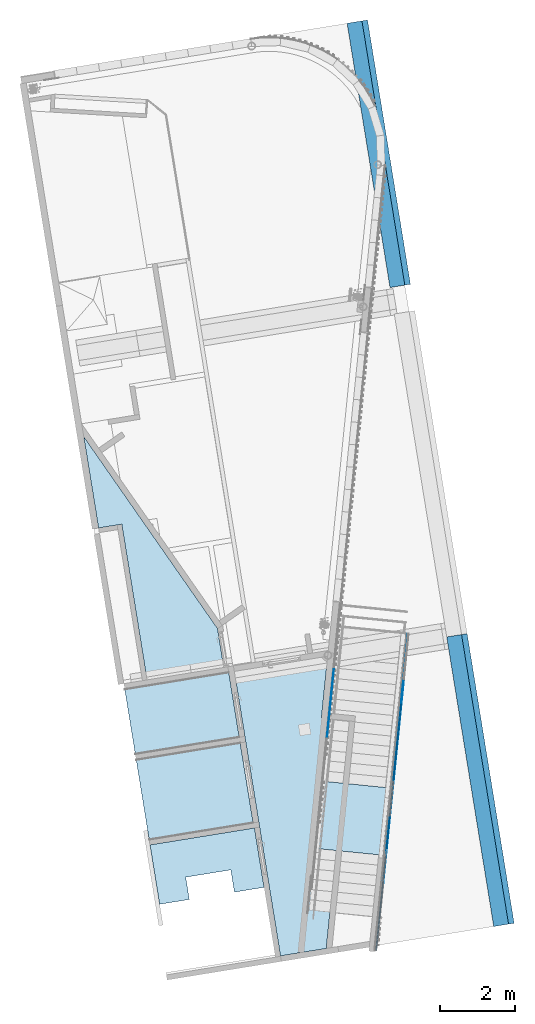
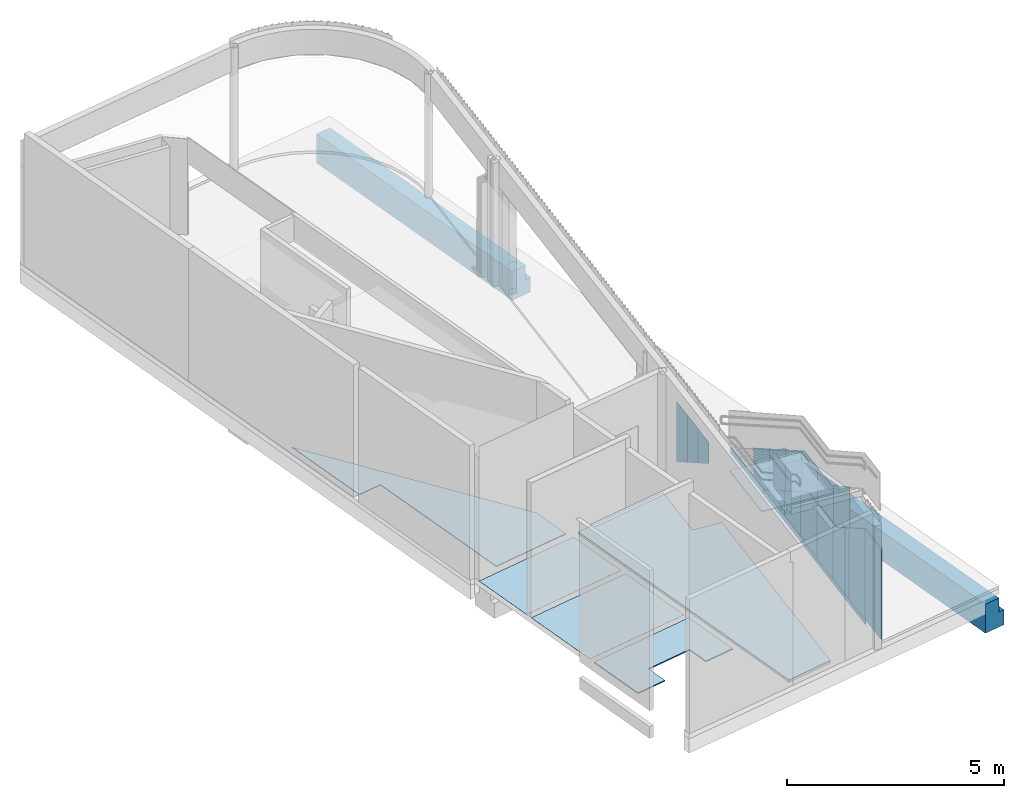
# One storey, part 6 of 23: 18 plates, 6 slabs, 2 beams, 5 elements without a shape of their own.
"""IFC2X3 building model written with IfcOpenShell, lengths in millimetres."""

from ifc_helpers import new_model, entity, si_unit, converted_unit, derived_unit, direction, frame, frame_2d, origin, origin_with_axes, origin_2d_with_axis, place, context, subcontext, project, spatial, polyline, rectangle, outline, extrude, faceted_brep, source, transform, mapped, material, layer, layer_set, layer_usage, type_object, element, aggregate, save


model = new_model("IFC2X3")

# Units and contexts
plan_context = context("Plan", 3, precision=1e-05, world=origin_with_axes())
model_context = context("Model", 3, precision=0.01, world=origin(), true_north=direction((6.12323399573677e-17, 1.0)))
body_context = subcontext(model_context, "Body", "Model", "MODEL_VIEW")
ifc_project = project(units=[converted_unit("PLANEANGLEUNIT", "DEGREE", entity("IfcPositiveLengthMeasure", 0.0174532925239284), si_unit("PLANEANGLEUNIT", "RADIAN"), dimensions=[0, 0, 0, 0, 0, 0, 0]), si_unit("AREAUNIT", "SQUARE_METRE"), si_unit("LENGTHUNIT", "METRE", prefix="MILLI"), si_unit("MASSUNIT", "GRAM", prefix="KILO"), si_unit("POWERUNIT", "WATT"), si_unit("PRESSUREUNIT", "PASCAL", prefix="KILO"), si_unit("FORCEUNIT", "NEWTON", prefix="KILO"), si_unit("ELECTRICVOLTAGEUNIT", "VOLT"), si_unit("ELECTRICCURRENTUNIT", "AMPERE"), si_unit("THERMODYNAMICTEMPERATUREUNIT", "DEGREE_CELSIUS"), si_unit("TIMEUNIT", "SECOND"), si_unit("VOLUMEUNIT", "CUBIC_METRE"), derived_unit("LINEARVELOCITYUNIT", [(si_unit("LENGTHUNIT", "METRE"), 1), (si_unit("TIMEUNIT", "SECOND"), -1)]), derived_unit("VOLUMETRICFLOWRATEUNIT", [(si_unit("VOLUMEUNIT", "CUBIC_METRE"), 1), (si_unit("TIMEUNIT", "SECOND"), -1)]), derived_unit("THERMALTRANSMITTANCEUNIT", [(si_unit("POWERUNIT", "WATT"), 1), (si_unit("THERMODYNAMICTEMPERATUREUNIT", "KELVIN"), -1), (si_unit("AREAUNIT", "SQUARE_METRE"), -1)]), derived_unit("SOUNDPRESSUREUNIT", [(si_unit("PRESSUREUNIT", "PASCAL"), 1)])], contexts=[model_context, plan_context])

# Site, building, storey
site_placement = place(None, frame((-0.00071070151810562, 0.00438415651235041, 0.0), z_axis=(0.0, 0.0, 1.0), x_axis=(-0.160236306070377, 0.987078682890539, 0.0)))
site = spatial("IfcSite", under=ifc_project, at=site_placement, Name="Default", CompositionType="ELEMENT")
building_placement = place(site_placement, origin_with_axes())
building = spatial("IfcBuilding", under=site, at=building_placement, Name="TOO", CompositionType="ELEMENT")
storey_placement = place(building_placement, frame((0.0, 0.0, 58999.9999999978), z_axis=(0.0, 0.0, 1.0), x_axis=(1.0, 0.0, 0.0)))
storey = spatial("IfcBuildingStorey", under=building, at=storey_placement, Name="Nivå F", CompositionType="ELEMENT", Elevation=58999.9999999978)

# Beams
beam_type = type_object("IfcBeamType", Name="A223 - LB Prefab. Betongbjelke 815x550:A223 - LB Prefab. Betongbjelke - 815 mm x 550 mm", PredefinedType="BEAM")
beam_1_placement = place(storey_placement, frame((789077.619644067, -510022.477242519, 0.0), z_axis=(0.0, 0.0, 1.0), x_axis=(-1.0, 0.0, 0.0)))
element("IfcBeam", 1, at=beam_1_placement, inside=storey, type_object=beam_type, Name="A223 - LB Prefab. Betongbjelke 815x550:A223 - LB Prefab. Betongbjelke - 815 mm x 550 mm", ObjectType="A223 - LB Prefab. Betongbjelke 815x550:A223 - LB Prefab. Betongbjelke - 815 mm x 550 mm", context=body_context, shape_type="Brep", body=[
    faceted_brep([(1689.46462267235, -318.999999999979, -330.000000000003), (1689.46462267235, 80.9999999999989, -330.000000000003), (8809.4999999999, 80.9999999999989, -330.000000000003), (8809.4999999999, -318.999999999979, -330.000000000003), (1689.46462267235, -318.999999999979, -1145.0), (8809.4999999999, -318.999999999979, -1145.0), (1689.46462267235, 230.999999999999, -1145.0), (8809.4999999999, 230.999999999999, -1145.0), (1689.46462267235, 230.999999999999, -725.0), (8809.4999999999, 230.999999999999, -725.0), (1689.46462267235, 80.9999999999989, -725.0), (8809.4999999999, 80.9999999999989, -725.0)], [[[0, 1, 2, 3]], [[4, 0, 3, 5]], [[6, 4, 5, 7]], [[8, 6, 7, 9]], [[10, 8, 9, 11]], [[1, 10, 11, 2]], [[3, 2, 11, 9, 7, 5]], [[4, 6, 8, 10, 1, 0]]], orient=[[False], [False], [False], [False], [False], [False], [False], [False]]),
])
beam_2_placement = place(storey_placement, frame((770852.619644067, -510022.477242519, -5.0), z_axis=(0.0, 0.0, 1.0), x_axis=(-1.0, 0.0, 0.0)))
element("IfcBeam", 2, at=beam_2_placement, inside=storey, type_object=beam_type, Name="A223 - LB Prefab. Betongbjelke 815x550:A223 - LB Prefab. Betongbjelke - 815 mm x 550 mm", ObjectType="A223 - LB Prefab. Betongbjelke 815x550:A223 - LB Prefab. Betongbjelke - 815 mm x 550 mm", context=body_context, shape_type="Brep", body=[
    faceted_brep([(7802.50000000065, 80.9999999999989, -330.000000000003), (7802.50000000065, -318.999999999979, -330.000000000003), (0.0, -318.999999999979, -330.000000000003), (0.0, 80.9999999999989, -330.000000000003), (7802.50000000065, -318.999999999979, -1145.0), (0.0, -318.999999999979, -1145.0), (7802.50000000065, 230.999999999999, -1145.0), (0.0, 230.999999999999, -1145.0), (7802.50000000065, 230.999999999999, -725.0), (0.0, 230.999999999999, -725.0), (7802.50000000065, 80.9999999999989, -725.0), (0.0, 80.9999999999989, -725.0)], [[[0, 1, 2, 3]], [[1, 4, 5, 2]], [[4, 6, 7, 5]], [[6, 8, 9, 7]], [[8, 10, 11, 9]], [[10, 0, 3, 11]], [[3, 2, 5, 7, 9, 11]], [[10, 8, 6, 4, 1, 0]]], orient=[[False], [False], [False], [False], [False], [False], [False], [False]]),
])

# Curtain wall, plates
curtain_wall_type = type_object("IfcCurtainWallType", Name="Curtain Wall:Curtain Wall Standard (Bruk kun denne)", PredefinedType="NOTDEFINED")
curtain_wall_1_placement = place(storey_placement, frame((0.0, 0.0, -58999.9999999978), z_axis=(0.0, 0.0, 1.0), x_axis=(1.0, 0.0, 0.0)))
curtain_wall_1 = element("IfcCurtainWall", 3, at=curtain_wall_1_placement, inside=storey, type_object=curtain_wall_type, Name="Curtain Wall:Curtain Wall Standard (Bruk kun denne)", ObjectType="Curtain Wall:Curtain Wall Standard (Bruk kun denne)")
ifc_material_1 = material(Name="A246 - T _veggkledning trespiler")
plate_type_1 = type_object("IfcPlateType", Name="System Panel:A246-T01 - Trespiler hovedpaviljong", PredefinedType="CURTAIN_PANEL", material=ifc_material_1)
shared_shape_1 = source(origin(), body_context, "Body", "SweptSolid", [
    extrude(outline(polyline([(-205.938933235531, -300.0), (388.547628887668, -300.0), (388.547628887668, 300.0), (-571.156324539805, 300.0), (-205.938933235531, -300.0)])), frame((0.0, -10.0, 571.156324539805), z_axis=(0.0, 1.0, 0.0), x_axis=(0.0, 0.0, 1.0)), (0.0, 0.0, 1.0), 10.0),
])
plate_1_placement = place(curtain_wall_1_placement, frame((769034.157781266, -506210.466719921, 60740.2960465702), z_axis=(0.0, 0.0, 1.0), x_axis=(0.965925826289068, -0.258819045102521, 0.0)))
plate_1 = element("IfcPlate", 4, at=plate_1_placement, type_object=plate_type_1, material=ifc_material_1, Name="System Panel:A246-T01 - Trespiler hovedpaviljong", ObjectType="System Panel:A246-T01 - Trespiler hovedpaviljong", context=body_context, shape_type="MappedRepresentation", body=[
    mapped(shared_shape_1, transform((0.0, 0.0, 0.0), scale=1.0)),
])
plate_type_2 = type_object("IfcPlateType", Name="System Panel:A246-T01 - Trespiler hovedpaviljong", PredefinedType="CURTAIN_PANEL", material=ifc_material_1)
shared_shape_2 = source(origin(), body_context, "Body", "SweptSolid", [
    extrude(outline(polyline([(-388.547628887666, -300.0), (571.156324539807, -300.0), (571.156324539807, 300.0), (-753.765020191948, 300.0), (-388.547628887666, -300.0)])), frame((0.0, -10.0, 753.765020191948), z_axis=(0.0, 1.0, 0.0), x_axis=(0.0, 0.0, 1.0)), (0.0, 0.0, 1.0), 10.0),
])
plate_2_placement = place(curtain_wall_1_placement, frame((769613.71327704, -506365.758146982, 60375.0786552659), z_axis=(0.0, 0.0, 1.0), x_axis=(0.965925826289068, -0.258819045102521, 0.0)))
plate_2 = element("IfcPlate", 5, at=plate_2_placement, type_object=plate_type_2, material=ifc_material_1, Name="System Panel:A246-T01 - Trespiler hovedpaviljong", ObjectType="System Panel:A246-T01 - Trespiler hovedpaviljong", context=body_context, shape_type="MappedRepresentation", body=[
    mapped(shared_shape_2, transform((0.0, 0.0, 0.0), scale=1.0)),
])
plate_type_3 = type_object("IfcPlateType", Name="System Panel:A246-T01 - Trespiler hovedpaviljong", PredefinedType="CURTAIN_PANEL", material=ifc_material_1)
shared_shape_3 = source(origin(), body_context, "Body", "SweptSolid", [
    extrude(outline(polyline([(-571.156324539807, -300.0), (753.765020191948, -300.0), (753.765020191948, 300.0), (-936.37371584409, 300.0), (-571.156324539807, -300.0)])), frame((0.0, -10.0, 936.37371584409), z_axis=(0.0, 1.0, 0.0), x_axis=(0.0, 0.0, 1.0)), (0.0, 0.0, 1.0), 10.0),
])
plate_3_placement = place(curtain_wall_1_placement, frame((770193.268772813, -506521.049574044, 60009.8612639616), z_axis=(0.0, 0.0, 1.0), x_axis=(0.965925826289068, -0.258819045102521, 0.0)))
plate_3 = element("IfcPlate", 6, at=plate_3_placement, type_object=plate_type_3, material=ifc_material_1, Name="System Panel:A246-T01 - Trespiler hovedpaviljong", ObjectType="System Panel:A246-T01 - Trespiler hovedpaviljong", context=body_context, shape_type="MappedRepresentation", body=[
    mapped(shared_shape_3, transform((0.0, 0.0, 0.0), scale=1.0)),
])
aggregate(curtain_wall_1, [plate_1, plate_2, plate_3])

# Curtain wall, plate
curtain_wall_2_placement = place(storey_placement, frame((0.0, 0.0, -58999.9999999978), z_axis=(0.0, 0.0, 1.0), x_axis=(1.0, 0.0, 0.0)))
curtain_wall_2 = element("IfcCurtainWall", 7, at=curtain_wall_2_placement, inside=storey, type_object=curtain_wall_type, Name="Curtain Wall:Curtain Wall Standard (Bruk kun denne)", ObjectType="Curtain Wall:Curtain Wall Standard (Bruk kun denne)")
ifc_material_2 = material(Name="A246 - M02 _veggkledning metalrist tilluft")
plate_type_4 = type_object("IfcPlateType", Name="System Panel:A246-M02 - Metallrist tilluft hovedpaviljong", PredefinedType="CURTAIN_PANEL", material=ifc_material_2)
shared_shape_4 = source(origin(), body_context, "Body", "SweptSolid", [
    extrude(rectangle(XDim=2545.0, YDim=895.000000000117, at=frame_2d((131.874999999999, -36.8749999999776), x_axis=(1.0, 0.0))), frame((36.8749999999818, -10.0, 1140.625), z_axis=(0.0, 1.0, 0.0), x_axis=(0.0, 0.0, 1.0)), (0.0, 0.0, 1.0), 30.0),
])
plate_4_placement = place(curtain_wall_2_placement, frame((763358.166870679, -506636.064343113, 59154.9999999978), z_axis=(0.0, 0.0, 1.0), x_axis=(0.965925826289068, -0.258819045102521, 0.0)))
plate_4 = element("IfcPlate", 8, at=plate_4_placement, type_object=plate_type_4, material=ifc_material_2, Name="System Panel:A246-M02 - Metallrist tilluft hovedpaviljong", ObjectType="System Panel:A246-M02 - Metallrist tilluft hovedpaviljong", context=body_context, shape_type="MappedRepresentation", body=[
    mapped(shared_shape_4, transform((0.0, 0.0, 0.0), scale=1.0)),
])
aggregate(curtain_wall_2, [plate_4])

# Curtain wall, plates
curtain_wall_3_placement = place(storey_placement, frame((0.0, 0.0, -58999.9999999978), z_axis=(0.0, 0.0, 1.0), x_axis=(1.0, 0.0, 0.0)))
curtain_wall_3 = element("IfcCurtainWall", 9, at=curtain_wall_3_placement, inside=storey, type_object=curtain_wall_type, Name="Curtain Wall:Curtain Wall Standard (Bruk kun denne)", ObjectType="Curtain Wall:Curtain Wall Standard (Bruk kun denne)")
ifc_material_3 = material(Name="A249 - S01 _sokkel veggkledning")
plate_type_5 = type_object("IfcPlateType", Name="A249-S02 - Sokkel veggkledning trespiler:A249-S02 - Sokkel veggkledning trespiler", PredefinedType="CURTAIN_PANEL", material=ifc_material_3)
shared_shape_5 = source(origin(), body_context, "Body", "SweptSolid", [
    extrude(rectangle(XDim=5714.21459508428, YDim=20.0, at=origin_2d_with_axis()), origin(), (0.0, 0.0, 1.0), 150.000000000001),
])
plate_5_placement = place(curtain_wall_3_placement, frame((766550.172405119, -507491.359648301, 58999.9999999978), z_axis=(0.0, 0.0, 1.0), x_axis=(0.965925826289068, -0.258819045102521, 0.0)))
plate_5 = element("IfcPlate", 10, at=plate_5_placement, type_object=plate_type_5, material=ifc_material_3, Name="A249-S02 - Sokkel veggkledning trespiler:A249-S02 - Sokkel veggkledning trespiler", ObjectType="A249-S02 - Sokkel veggkledning trespiler:A249-S02 - Sokkel veggkledning trespiler", context=body_context, shape_type="MappedRepresentation", body=[
    mapped(shared_shape_5, transform((0.0, 0.0, 0.0), scale=1.0)),
])
plate_type_6 = type_object("IfcPlateType", Name="System Panel:A246-M02 - Metallrist tilluft hovedpaviljong", PredefinedType="CURTAIN_PANEL", material=ifc_material_2)
shared_shape_6 = source(origin(), body_context, "Body", "SweptSolid", [
    extrude(outline(polyline([(-1305.81870469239, -539.480053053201), (1233.2845653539, -539.480053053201), (687.040925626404, 357.92021221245), (691.311918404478, 360.519946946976), (-1305.81870469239, 360.519946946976), (-1305.81870469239, -539.480053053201)])), frame((89.4800530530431, -10.0, 1305.81870469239), z_axis=(0.0, 1.0, 0.0), x_axis=(0.0, 0.0, 1.0)), (0.0, 0.0, 1.0), 30.0),
])
plate_6_placement = place(curtain_wall_3_placement, frame((764225.085299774, -506868.354436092, 59154.9999999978), z_axis=(0.0, 0.0, 1.0), x_axis=(0.965925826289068, -0.258819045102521, 0.0)))
plate_6 = element("IfcPlate", 11, at=plate_6_placement, type_object=plate_type_6, material=ifc_material_2, Name="System Panel:A246-M02 - Metallrist tilluft hovedpaviljong", ObjectType="System Panel:A246-M02 - Metallrist tilluft hovedpaviljong", context=body_context, shape_type="MappedRepresentation", body=[
    mapped(shared_shape_6, transform((0.0, 0.0, 0.0), scale=1.0)),
])
plate_type_7 = type_object("IfcPlateType", Name="System Panel:A246-M02 - Metallrist tilluft hovedpaviljong", PredefinedType="CURTAIN_PANEL", material=ifc_material_2)
shared_shape_7 = source(origin(), body_context, "Body", "SweptSolid", [
    extrude(outline(polyline([(-1103.00103171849, -546.066814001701), (888.276151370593, -546.066814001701), (439.727975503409, 190.833760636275), (438.998968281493, 193.433495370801), (438.998968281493, 353.933185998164), (-1103.00103171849, 353.933185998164), (-1103.00103171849, -546.066814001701)])), frame((96.0668140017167, -10.0, 1103.00103171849), z_axis=(0.0, 1.0, 0.0), x_axis=(0.0, 0.0, 1.0)), (0.0, 0.0, 1.0), 30.0),
])
plate_7_placement = place(curtain_wall_3_placement, frame((765094.418543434, -507101.291576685, 59154.9999999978), z_axis=(0.0, 0.0, 1.0), x_axis=(0.965925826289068, -0.258819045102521, 0.0)))
plate_7 = element("IfcPlate", 12, at=plate_7_placement, type_object=plate_type_7, material=ifc_material_2, Name="System Panel:A246-M02 - Metallrist tilluft hovedpaviljong", ObjectType="System Panel:A246-M02 - Metallrist tilluft hovedpaviljong", context=body_context, shape_type="MappedRepresentation", body=[
    mapped(shared_shape_7, transform((0.0, 0.0, 0.0), scale=1.0)),
])
plate_type_8 = type_object("IfcPlateType", Name="System Panel:A246-M02 - Metallrist tilluft hovedpaviljong", PredefinedType="CURTAIN_PANEL", material=ifc_material_2)
shared_shape_8 = source(origin(), body_context, "Body", "SweptSolid", [
    extrude(rectangle(XDim=30.0, YDim=899.999999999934, at=frame_2d((0.0, -1.30739863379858e-11), x_axis=(1.0, 0.0))), frame((0.0, 5.0, 0.0), z_axis=(0.0, 0.0, 1.0), x_axis=(0.0, 1.0, 0.0)), (0.0, 0.0, 1.0), 1542.0),
])
plate_8_placement = place(curtain_wall_3_placement, frame((765963.751787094, -507334.228717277, 59154.9999999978), z_axis=(0.0, 0.0, 1.0), x_axis=(0.965925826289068, -0.258819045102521, 0.0)))
plate_8 = element("IfcPlate", 13, at=plate_8_placement, type_object=plate_type_8, material=ifc_material_2, Name="System Panel:A246-M02 - Metallrist tilluft hovedpaviljong", ObjectType="System Panel:A246-M02 - Metallrist tilluft hovedpaviljong", context=body_context, shape_type="MappedRepresentation", body=[
    mapped(shared_shape_8, transform((0.0, 0.0, 0.0), scale=1.0)),
])
plate_type_9 = type_object("IfcPlateType", Name="System Panel:A246-M02 - Metallrist tilluft hovedpaviljong", PredefinedType="CURTAIN_PANEL", material=ifc_material_2)
shared_shape_9 = source(origin(), body_context, "Body", "SweptSolid", [
    extrude(outline(polyline([(-940.59257846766, -526.749749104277), (601.407421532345, -526.749749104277), (601.407421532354, -63.6515197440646), (337.049660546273, 370.6505161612), (341.320653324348, 373.250250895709), (-940.59257846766, 373.250250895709), (-940.59257846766, -526.749749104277)])), frame((76.7497491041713, -10.0, 940.59257846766), z_axis=(0.0, 1.0, 0.0), x_axis=(0.0, 0.0, 1.0)), (0.0, 0.0, 1.0), 30.0),
])
plate_9_placement = place(curtain_wall_3_placement, frame((766833.085030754, -507567.165857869, 59154.9999999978), z_axis=(0.0, 0.0, 1.0), x_axis=(0.965925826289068, -0.258819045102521, 0.0)))
plate_9 = element("IfcPlate", 14, at=plate_9_placement, type_object=plate_type_9, material=ifc_material_2, Name="System Panel:A246-M02 - Metallrist tilluft hovedpaviljong", ObjectType="System Panel:A246-M02 - Metallrist tilluft hovedpaviljong", context=body_context, shape_type="MappedRepresentation", body=[
    mapped(shared_shape_9, transform((0.0, 0.0, 0.0), scale=1.0)),
])
plate_type_10 = type_object("IfcPlateType", Name="System Panel:A246-M02 - Metallrist tilluft hovedpaviljong", PredefinedType="CURTAIN_PANEL", material=ifc_material_2)
shared_shape_10 = source(origin(), body_context, "Body", "SweptSolid", [
    extrude(outline(polyline([(-547.992617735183, -539.480053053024), (728.067174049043, -539.480053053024), (181.823534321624, 357.920212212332), (186.094527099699, 360.519946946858), (-547.992617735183, 360.519946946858), (-547.992617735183, -539.480053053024)])), frame((89.4800530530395, -10.0, 547.992617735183), z_axis=(0.0, 1.0, 0.0), x_axis=(0.0, 0.0, 1.0)), (0.0, 0.0, 1.0), 30.0),
])
plate_10_placement = place(curtain_wall_3_placement, frame((767702.418274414, -507800.102998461, 59154.9999999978), z_axis=(0.0, 0.0, 1.0), x_axis=(0.965925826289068, -0.258819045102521, 0.0)))
plate_10 = element("IfcPlate", 15, at=plate_10_placement, type_object=plate_type_10, material=ifc_material_2, Name="System Panel:A246-M02 - Metallrist tilluft hovedpaviljong", ObjectType="System Panel:A246-M02 - Metallrist tilluft hovedpaviljong", context=body_context, shape_type="MappedRepresentation", body=[
    mapped(shared_shape_10, transform((0.0, 0.0, 0.0), scale=1.0)),
])
plate_type_11 = type_object("IfcPlateType", Name="System Panel:A246-M02 - Metallrist tilluft hovedpaviljong", PredefinedType="CURTAIN_PANEL", material=ifc_material_2)
shared_shape_11 = source(origin(), body_context, "Body", "SweptSolid", [
    extrude(outline(polyline([(-242.7445682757, -398.794647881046), (485.489136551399, -398.794647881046), (-242.7445682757, 797.589295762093), (-242.7445682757, -398.794647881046)])), frame((-199.397323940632, -10.0, 242.7445682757), z_axis=(0.0, 1.0, 0.0), x_axis=(0.0, 0.0, 1.0)), (0.0, 0.0, 1.0), 30.0),
])
plate_11_placement = place(curtain_wall_3_placement, frame((768714.893970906, -508071.395043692, 59154.9999999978), z_axis=(0.0, 0.0, 1.0), x_axis=(0.965925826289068, -0.258819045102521, 0.0)))
plate_11 = element("IfcPlate", 16, at=plate_11_placement, type_object=plate_type_11, material=ifc_material_2, Name="System Panel:A246-M02 - Metallrist tilluft hovedpaviljong", ObjectType="System Panel:A246-M02 - Metallrist tilluft hovedpaviljong", context=body_context, shape_type="MappedRepresentation", body=[
    mapped(shared_shape_11, transform((0.0, 0.0, 0.0), scale=1.0)),
])
aggregate(curtain_wall_3, [plate_5, plate_6, plate_7, plate_8, plate_9, plate_10, plate_11])

curtain_wall_4_placement = place(storey_placement, frame((0.0, 0.0, -58999.9999999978), z_axis=(0.0, 0.0, 1.0), x_axis=(1.0, 0.0, 0.0)))
curtain_wall_4 = element("IfcCurtainWall", 17, at=curtain_wall_4_placement, inside=storey, type_object=curtain_wall_type, Name="Curtain Wall:Curtain Wall Standard (Bruk kun denne)", ObjectType="Curtain Wall:Curtain Wall Standard (Bruk kun denne)")
plate_type_12 = type_object("IfcPlateType", Name="A249-S02 - Sokkel veggkledning trespiler:A249-S02 - Sokkel veggkledning trespiler", PredefinedType="CURTAIN_PANEL", material=ifc_material_3)
shared_shape_12 = source(origin(), body_context, "Body", "SweptSolid", [
    extrude(rectangle(XDim=1848.34806416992, YDim=20.0, at=origin_2d_with_axis()), origin(), (0.0, 0.0, 1.0), 149.999999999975),
])
plate_12_placement = place(curtain_wall_4_placement, frame((770202.60969787, -508470.027271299, 58999.9999999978), z_axis=(0.0, 0.0, 1.0), x_axis=(0.965925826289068, -0.258819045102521, 0.0)))
plate_12 = element("IfcPlate", 18, at=plate_12_placement, type_object=plate_type_12, material=ifc_material_3, Name="A249-S02 - Sokkel veggkledning trespiler:A249-S02 - Sokkel veggkledning trespiler", ObjectType="A249-S02 - Sokkel veggkledning trespiler:A249-S02 - Sokkel veggkledning trespiler", context=body_context, shape_type="MappedRepresentation", body=[
    mapped(shared_shape_12, transform((0.0, 0.0, 0.0), scale=1.0)),
])
plate_type_13 = type_object("IfcPlateType", Name="System Panel:A246-T01 - Trespiler hovedpaviljong", PredefinedType="CURTAIN_PANEL", material=ifc_material_1)
shared_shape_13 = source(origin(), body_context, "Body", "SweptSolid", [
    extrude(outline(polyline([(-520.466518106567, -409.621600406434), (345.257621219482, -409.621600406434), (943.19661014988, 572.706738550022), (-110.422591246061, 572.706738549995), (-657.565122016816, -326.170276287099), (-520.466518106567, -409.621600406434)])), frame((57.9000618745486, -10.0, 620.513156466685), z_axis=(0.0, 1.0, 0.0), x_axis=(-0.854198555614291, 0.0, 0.519946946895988)), (0.0, 0.0, 1.0), 10.0),
])
plate_13_placement = place(curtain_wall_4_placement, frame((765094.418543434, -507101.291576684, 60701.9999999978), z_axis=(0.0, 0.0, 1.0), x_axis=(0.965925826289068, -0.258819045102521, 0.0)))
plate_13 = element("IfcPlate", 19, at=plate_13_placement, type_object=plate_type_13, material=ifc_material_1, Name="System Panel:A246-T01 - Trespiler hovedpaviljong", ObjectType="System Panel:A246-T01 - Trespiler hovedpaviljong", context=body_context, shape_type="MappedRepresentation", body=[
    mapped(shared_shape_13, transform((0.0, 0.0, 0.0), scale=1.0)),
])
plate_type_14 = type_object("IfcPlateType", Name="System Panel:A246-T01 - Trespiler hovedpaviljong", PredefinedType="CURTAIN_PANEL", material=ifc_material_1)
shared_shape_14 = source(origin(), body_context, "Body", "SweptSolid", [
    extrude(outline(polyline([(-603.260907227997, -383.10006187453), (449.043628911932, -383.10006187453), (378.739092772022, -267.599752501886), (378.739092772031, 516.899938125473), (-603.260907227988, 516.899938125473), (-603.260907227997, -383.10006187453)])), frame((-66.8999381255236, -10.0, 603.260907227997), z_axis=(0.0, 1.0, 0.0), x_axis=(0.0, 0.0, 1.0)), (0.0, 0.0, 1.0), 10.0),
])
plate_14_placement = place(curtain_wall_4_placement, frame((765963.751787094, -507334.228717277, 60701.9999999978), z_axis=(0.0, 0.0, 1.0), x_axis=(0.965925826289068, -0.258819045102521, 0.0)))
plate_14 = element("IfcPlate", 20, at=plate_14_placement, type_object=plate_type_14, material=ifc_material_1, Name="System Panel:A246-T01 - Trespiler hovedpaviljong", ObjectType="System Panel:A246-T01 - Trespiler hovedpaviljong", context=body_context, shape_type="MappedRepresentation", body=[
    mapped(shared_shape_14, transform((0.0, 0.0, 0.0), scale=1.0)),
])
plate_type_15 = type_object("IfcPlateType", Name="System Panel:A246-T01 - Trespiler hovedpaviljong", PredefinedType="CURTAIN_PANEL", material=ifc_material_1)
shared_shape_15 = source(origin(), body_context, "Body", "SweptSolid", [
    extrude(outline(polyline([(36.3331270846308, -430.637743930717), (500.833436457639, -430.637743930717), (500.83343645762, 551.362256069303), (-239.666872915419, 551.362256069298), (-399.166563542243, 454.275487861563), (-399.166563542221, -695.724512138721), (36.3331270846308, -430.637743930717)])), frame((50.8334364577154, -10.0, 695.724512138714), z_axis=(0.0, 1.0, 0.0), x_axis=(-1.0, 0.0, 0.0)), (0.0, 0.0, 1.0), 10.0),
])
plate_15_placement = place(curtain_wall_4_placement, frame((766833.085030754, -507567.165857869, 60436.9132317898), z_axis=(0.0, 0.0, 1.0), x_axis=(0.965925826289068, -0.258819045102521, 0.0)))
plate_15 = element("IfcPlate", 21, at=plate_15_placement, type_object=plate_type_15, material=ifc_material_1, Name="System Panel:A246-T01 - Trespiler hovedpaviljong", ObjectType="System Panel:A246-T01 - Trespiler hovedpaviljong", context=body_context, shape_type="MappedRepresentation", body=[
    mapped(shared_shape_15, transform((0.0, 0.0, 0.0), scale=1.0)),
])
plate_type_16 = type_object("IfcPlateType", Name="System Panel:A246-T01 - Trespiler hovedpaviljong", PredefinedType="CURTAIN_PANEL", material=ifc_material_1)
shared_shape_16 = source(origin(), body_context, "Body", "SweptSolid", [
    extrude(outline(polyline([(-301.086956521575, -450.0), (848.913043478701, -450.0), (301.086956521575, 450.0), (-848.913043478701, 450.0), (-301.086956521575, -450.0)])), frame((0.0, -10.0, 848.913043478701), z_axis=(0.0, 1.0, 0.0), x_axis=(0.0, 0.0, 1.0)), (0.0, 0.0, 1.0), 10.0),
])
plate_16_placement = place(curtain_wall_4_placement, frame((767702.418274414, -507800.102998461, 59889.0871448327), z_axis=(0.0, 0.0, 1.0), x_axis=(0.965925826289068, -0.258819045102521, 0.0)))
plate_16 = element("IfcPlate", 22, at=plate_16_placement, type_object=plate_type_16, material=ifc_material_1, Name="System Panel:A246-T01 - Trespiler hovedpaviljong", ObjectType="System Panel:A246-T01 - Trespiler hovedpaviljong", context=body_context, shape_type="MappedRepresentation", body=[
    mapped(shared_shape_16, transform((0.0, 0.0, 0.0), scale=1.0)),
])
plate_17_placement = place(curtain_wall_4_placement, frame((768571.751518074, -508033.040139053, 59341.2610578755), z_axis=(0.0, 0.0, 1.0), x_axis=(0.965925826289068, -0.258819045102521, 0.0)))
plate_17 = element("IfcPlate", 23, at=plate_17_placement, type_object=plate_type_16, material=ifc_material_1, Name="System Panel:A246-T01 - Trespiler hovedpaviljong", ObjectType="System Panel:A246-T01 - Trespiler hovedpaviljong", context=body_context, shape_type="MappedRepresentation", body=[
    mapped(shared_shape_16, transform((0.0, 0.0, 0.0), scale=1.0)),
])
plate_type_17 = type_object("IfcPlateType", Name="System Panel:A246-T01 - Trespiler hovedpaviljong", PredefinedType="CURTAIN_PANEL", material=ifc_material_1)
shared_shape_17 = source(origin(), body_context, "Body", "SweptSolid", [
    extrude(outline(polyline([(-149.084699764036, -453.846802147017), (218.762556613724, -453.846802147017), (816.701545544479, 528.481536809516), (-236.917655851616, 528.481536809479), (-649.461746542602, -149.269469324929), (-149.084699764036, -453.846802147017)])), frame((-27.1570809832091, -10.0, 465.191417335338), z_axis=(0.0, 1.0, 0.0), x_axis=(-0.854198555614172, 0.0, 0.519946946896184)), (0.0, 0.0, 1.0), 10.0),
])
plate_18_placement = place(curtain_wall_4_placement, frame((769441.084761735, -508265.977279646, 59149.9999999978), z_axis=(0.0, 0.0, 1.0), x_axis=(0.965925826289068, -0.258819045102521, 0.0)))
plate_18 = element("IfcPlate", 24, at=plate_18_placement, type_object=plate_type_17, material=ifc_material_1, Name="System Panel:A246-T01 - Trespiler hovedpaviljong", ObjectType="System Panel:A246-T01 - Trespiler hovedpaviljong", context=body_context, shape_type="MappedRepresentation", body=[
    mapped(shared_shape_17, transform((0.0, 0.0, 0.0), scale=1.0)),
])
aggregate(curtain_wall_4, [plate_12, plate_13, plate_14, plate_15, plate_16, plate_17, plate_18])

# Slab
ifc_material_4 = material(Name="A255 - Avretting")
ifc_layer_1 = layer(ifc_material_4, 70.0)
ifc_layer_set_1 = layer_set([ifc_layer_1], Name="Floor:A255-ML01 Poretettet betong")
ifc_layer_usage_1 = layer_usage(ifc_layer_set_1, "AXIS3", "POSITIVE", 0.0)
slab_type_1 = type_object("IfcSlabType", Name="Floor:A255-ML01 Poretettet betong", PredefinedType="FLOOR", material=ifc_layer_set_1)
slab_1_placement = place(storey_placement, frame((763187.619644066, -506787.449037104, -70.0), z_axis=(0.0, 0.0, 1.0), x_axis=(1.0, 0.0, 0.0)))
element("IfcSlab", 25, at=slab_1_placement, inside=storey, type_object=slab_type_1, material=ifc_layer_usage_1, Name="Floor:A255-ML01 Poretettet betong", ObjectType="Floor:A255-ML01 Poretettet betong", PredefinedType="FLOOR", shape_type="SweptSolid", body=[
    extrude(outline(polyline([(-1735.0, -2744.76478452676), (-1735.0, -5260.87848452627), (-137.648830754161, -4832.8695286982), (55.1713578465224, -5552.48426928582), (5930.0, -3978.32867894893), (5930.0, -2744.76478452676), (-1735.0, -2744.76478452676)])), frame((5930.0, 5552.48426928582, 70.0), z_axis=(0.0, 0.0, -1.0), x_axis=(-1.0, 0.0, 0.0)), (0.0, 0.0, 1.0), 70.0000000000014),
])

# Stair, slab
stair_placement = place(storey_placement, origin_with_axes())
stair = element("IfcStair", 26, at=stair_placement, inside=storey, Name="Assembled Stair:Stair", ObjectType="Assembled Stair:A280 - S01", ShapeType="NOTDEFINED")
ifc_material_5 = material(Name="A255 - Gummi")
slab_type_2 = type_object("IfcSlabType", Name="Non-Monolithic Landing:Non-Monolithic Landing", PredefinedType="LANDING")
slab_2_placement = place(stair_placement, origin_with_axes())
slab_2 = element("IfcSlab", 27, at=slab_2_placement, type_object=slab_type_2, material=ifc_material_5, Name="Assembled Stair:Stair:14128751 Landing 1", ObjectType="Non-Monolithic Landing:Non-Monolithic Landing", PredefinedType="LANDING", context=body_context, shape_type="SweptSolid", body=[
    extrude(rectangle(XDim=1800.00000000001, YDim=1799.99999999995, at=frame_2d((1.79056769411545e-11, -6.6904703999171e-11), x_axis=(1.0, 0.0))), frame((766496.45490067, -506457.210429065, 2643.26086956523), z_axis=(0.0, 0.0, 1.0), x_axis=(0.258819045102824, 0.965925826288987, 0.0)), (0.0, 0.0, 1.0), 35.0000000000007),
])
aggregate(stair, [slab_2])

# Slabs
ifc_layer_2 = layer(ifc_material_4, 2.0)
ifc_layer_set_2 = layer_set([ifc_layer_2], Name="Floor:A255-ML06")
ifc_layer_usage_2 = layer_usage(ifc_layer_set_2, "AXIS3", "POSITIVE", 0.0)
slab_type_3 = type_object("IfcSlabType", Name="Floor:A255-ML06", PredefinedType="FLOOR", material=ifc_layer_set_2)
slab_3_placement = place(storey_placement, frame((766804.369644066, -503829.729552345, -70.0), z_axis=(0.0, 0.0, 1.0), x_axis=(1.0, 0.0, 0.0)))
element("IfcSlab", 28, at=slab_3_placement, inside=storey, type_object=slab_type_3, material=ifc_layer_usage_2, Name="Floor:A255-ML06", ObjectType="Floor:A255-ML06", PredefinedType="FLOOR", shape_type="SweptSolid", body=[
    extrude(rectangle(XDim=2139.25000000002, YDim=2802.49905381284, at=frame_2d((950.0, 0.0), x_axis=(1.0, 0.0))), frame((2019.62500000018, 1401.24952690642, 2.0), z_axis=(0.0, 0.0, -1.0), x_axis=(-1.0, 0.0, 0.0)), (0.0, 0.0, 1.0), 1.99999999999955),
])
slab_4_placement = place(storey_placement, frame((766804.369644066, -503829.729552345, -70.0), z_axis=(0.0, 0.0, 1.0), x_axis=(1.0, 0.0, 0.0)))
element("IfcSlab", 29, at=slab_4_placement, inside=storey, type_object=slab_type_3, material=ifc_layer_usage_2, Name="Floor:A255-ML06:2", ObjectType="Floor:A255-ML06", PredefinedType="FLOOR", shape_type="SweptSolid", body=[
    extrude(rectangle(XDim=1736.50000000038, YDim=2802.49905381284, at=frame_2d((-1151.37499999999, 0.0), x_axis=(1.0, 0.0))), frame((2019.62500000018, 1401.24952690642, 2.0), z_axis=(0.0, 0.0, -1.0), x_axis=(-1.0, 0.0, 0.0)), (0.0, 0.0, 1.0), 1.99999999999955),
])
ifc_material_6 = material(Name="Metal - Rist")
ifc_layer_3 = layer(ifc_material_6, 30.0)
ifc_layer_set_3 = layer_set([ifc_layer_3], Name="Floor:A255-M01")
ifc_layer_usage_3 = layer_usage(ifc_layer_set_3, "AXIS3", "POSITIVE", 0.0)
slab_type_4 = type_object("IfcSlabType", Name="Floor:A255-M01", PredefinedType="FLOOR", material=ifc_layer_set_3)
slab_5_placement = place(storey_placement, origin_with_axes())
element("IfcSlab", 30, at=slab_5_placement, inside=storey, type_object=slab_type_4, material=ifc_layer_usage_3, Name="Floor:A255-M01", ObjectType="Floor:A255-M01", PredefinedType="FLOOR", context=body_context, shape_type="SweptSolid", body=[
    extrude(outline(polyline([(-1407.49952690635, -550.0), (-607.499526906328, -550.0), (-607.499526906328, 50.0), (607.499526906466, 50.0), (607.499526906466, -550.0), (1407.49952690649, -550.0), (1407.49952690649, 1050.0), (-1407.49952690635, 1050.0), (-1407.49952690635, -550.0)])), frame((765607.869644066, -502434.730025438, -70.0), z_axis=(0.0, 0.0, -1.0), x_axis=(0.0, 1.0, 0.0)), (0.0, 0.0, 1.0), 30.0000000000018),
])
ifc_material_7 = material(Name="A255 - Vinylbelegg våtrom")
ifc_layer_4 = layer(ifc_material_7, 3.0)
ifc_material_8 = material(Name="_NSW Generell Gulv (Floor)")
ifc_layer_5 = layer(ifc_material_8, 17.0)
ifc_layer_set_4 = layer_set([ifc_layer_4, ifc_layer_5], Name="Floor:A255-B10 Vinylgulv 3mm (KA)")
ifc_layer_usage_4 = layer_usage(ifc_layer_set_4, "AXIS3", "POSITIVE", 0.0)
slab_type_5 = type_object("IfcSlabType", Name="Floor:A255-B10 Vinylgulv 3mm (KA)", PredefinedType="FLOOR", material=ifc_layer_set_4)
slab_6_placement = place(storey_placement, origin_with_axes())
element("IfcSlab", 31, at=slab_6_placement, inside=storey, type_object=slab_type_5, material=ifc_layer_usage_4, Name="Floor:A255-B10 Vinylgulv 3mm (KA)", ObjectType="Floor:A255-B10 Vinylgulv 3mm (KA)", PredefinedType="FLOOR", context=body_context, shape_type="SweptSolid", body=[
    extrude(outline(polyline([(-1587.47753051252, -2699.44068226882), (481.238765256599, -2699.44068226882), (481.238765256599, 1520.55931773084), (1106.23876525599, 1520.55931773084), (1106.23876525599, 3981.85677385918), (-1587.47753051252, -1624.09404478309), (-1587.47753051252, -2699.44068226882)])), frame((773677.060326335, -502133.719263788, 0.0), z_axis=(0.0, 0.0, -1.0), x_axis=(0.0, 1.0, 0.0)), (0.0, 0.0, 1.0), 20.0000000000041),
])

save(model, "model.ifc")
